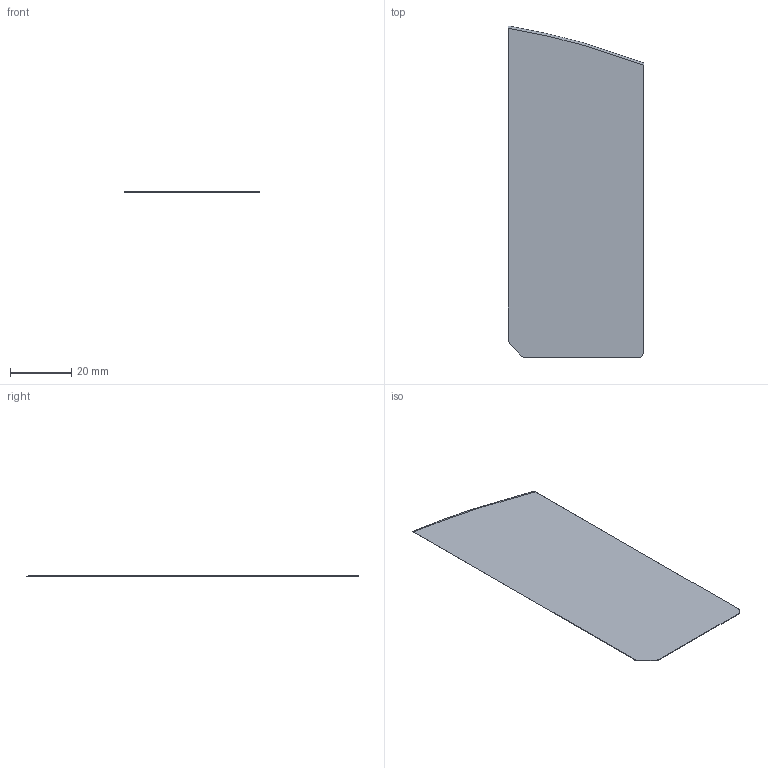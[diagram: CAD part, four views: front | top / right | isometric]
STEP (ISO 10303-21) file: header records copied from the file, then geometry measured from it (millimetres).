
FILE_DESCRIPTION (( 'STEP AP203' ), '1' );
FILE_NAME ('1410127-000-01 104DF201 ~ Knife I Ïëîñêèé íîæ 108-44-0,2 (ITMS SKU 81001822).STEP', '2026-07-20T09:07:06', ( '' ), ( '' ), 'SwSTEP 2.0', 'SolidWorks 2022', '' );
FILE_SCHEMA (( 'CONFIG_CONTROL_DESIGN' ));
Length unit declared in the file: millimetre
Products named in the file (1): 1410127-000-01 104DF201 ~ Knife I Плоский нож 108-44-0,2 (ITMS SKU 81001822)
Bounding box: 44 x 108 x 0.2 mm (x, y, z)
Volume: 898.4 mm3; surface area: 9067.7 mm2
Topology: 1 solids, 1 shells, 10 faces, 24 edges, 16 vertices
Faces by surface type: plane 6, cylinder 3, bspline 1
Entity records: 395 total; most frequent: CARTESIAN_POINT 86, ORIENTED_EDGE 48, DIRECTION 46, EDGE_CURVE 24, AXIS2_PLACEMENT_3D 16, VERTEX_POINT 16, LINE 14, VECTOR 14
